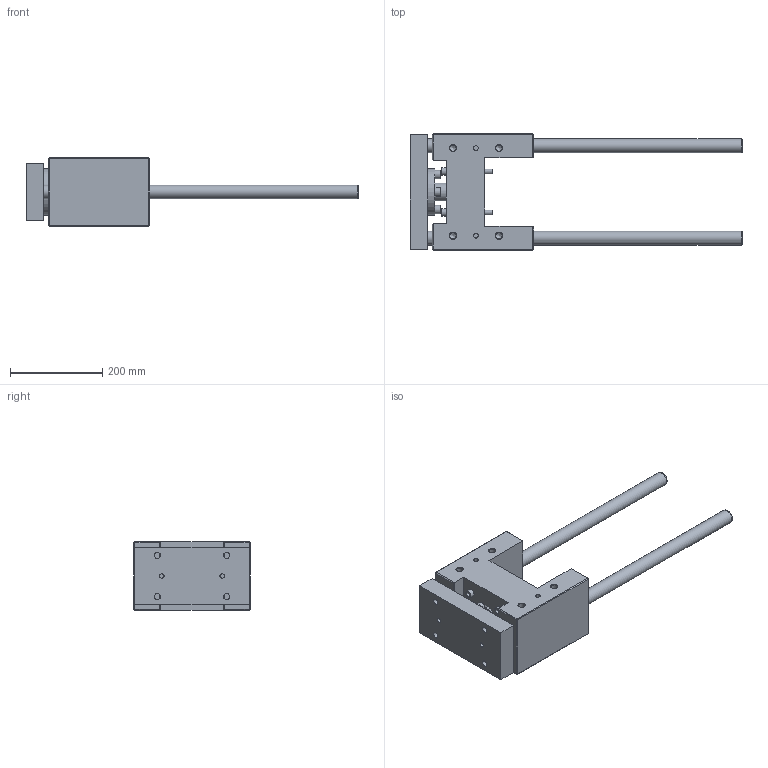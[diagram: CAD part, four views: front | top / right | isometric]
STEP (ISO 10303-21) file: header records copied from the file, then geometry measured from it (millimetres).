
FILE_DESCRIPTION( ( 'STEP AP214' ), '1' );
FILE_NAME( 'U:/Etudes/Top Solid/BIBLIO 3D AVM/TOP/PNEUMATIQUE/GUIDAGES/Type 32 (en H)/R_Renforcée/329R7230.step', '2005-05-27T09:26:04', ( ' ' ), ( ' ' ), 'XStep 1.0', ' ', ' ' );
FILE_SCHEMA( ( 'automotive_design' ) );
Length unit declared in the file: metre
Products named in the file (2): 1; 2
Bounding box: 720 x 252 x 148 mm (x, y, z)
Volume: 6941129.2 mm3; surface area: 589775.6 mm2
Topology: 2 solids, 7 shells, 239 faces, 527 edges, 341 vertices
Faces by surface type: plane 149, cylinder 69, cone 21
Full cylindrical faces by diameter (mm): 10 x12, 10.106 x4, 11 x4, 12 x8, 13 x8, 13.835 x8, 16 x4, 18 x4, 18.376 x2, 20 x4, 30 x4, 39 x1, 42 x1, 55 x1, 57 x1, 60 x1, 65 x1, 100 x1
Entity records: 7933 total; most frequent: CARTESIAN_POINT 1201, DIRECTION 1000, ORIENTED_EDGE 786, EDGE_CURVE 393, EDGE_LOOP 392, AXIS2_PLACEMENT_3D 374, FACE_OUTER_BOUND 308, VERTEX_POINT 303
